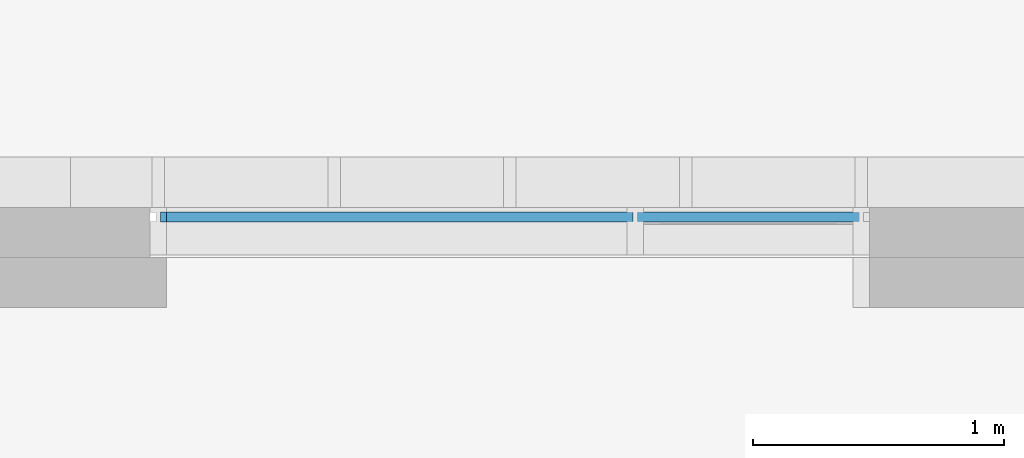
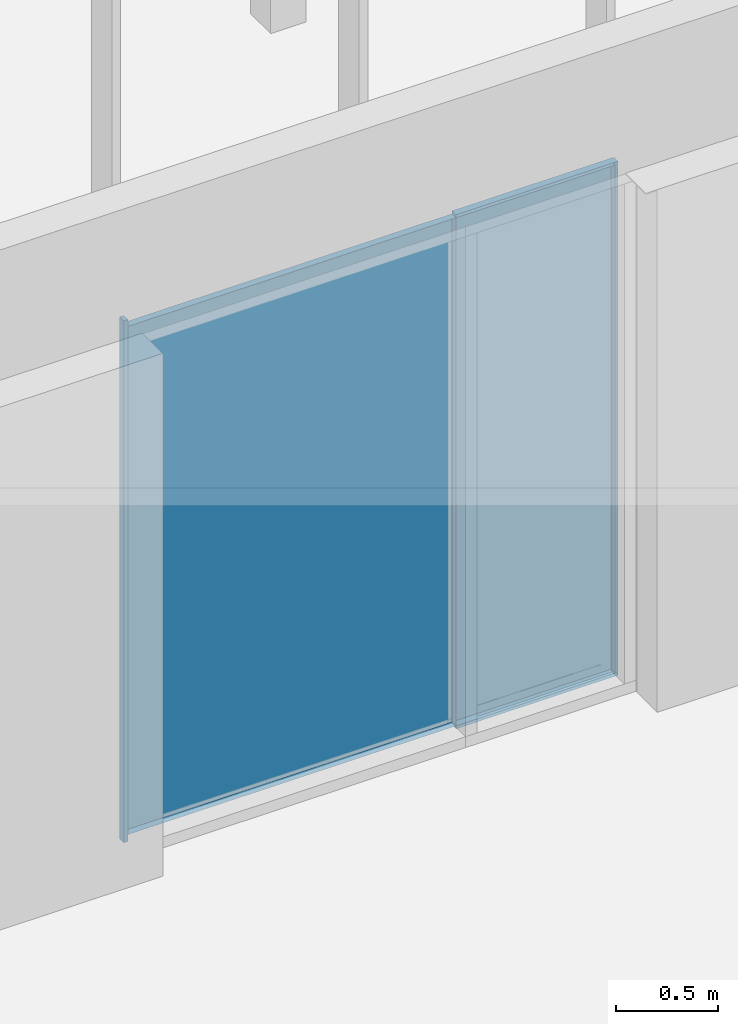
# One storey, part 76 of 240: 2 plates, 1 element without a shape of its own.
"""IFC2X3 building model written with IfcOpenShell, lengths in centimetres."""

from ifc_helpers import new_model, entity, si_unit, converted_unit, derived_unit, direction, frame, origin, origin_2d_with_axis, place, context, subcontext, project, spatial, rectangle, extrude, faceted_brep, source, transform, mapped, material, layer, layer_set, layer_usage, type_object, type_shapes, element, aggregate, save


model = new_model("IFC2X3")

# Units and contexts
model_context = context("Model", 3, precision=0.001, world=origin(), true_north=direction((6.12303176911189e-17, 1.0)))
body_context = subcontext(model_context, "Body", "Model", "MODEL_VIEW")
ifc_project = project(units=[si_unit("LENGTHUNIT", "METRE", prefix="CENTI"), si_unit("AREAUNIT", "SQUARE_METRE"), si_unit("VOLUMEUNIT", "CUBIC_METRE"), converted_unit("PLANEANGLEUNIT", "DEGREE", entity("IfcRatioMeasure", 0.0174532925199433), si_unit("PLANEANGLEUNIT", "RADIAN"), dimensions=[0, 0, 0, 0, 0, 0, 0]), si_unit("MASSUNIT", "GRAM", prefix="KILO"), derived_unit("MASSDENSITYUNIT", [(si_unit("MASSUNIT", "GRAM", prefix="KILO"), 1), (si_unit("LENGTHUNIT", "METRE"), -3)]), si_unit("TIMEUNIT", "SECOND"), si_unit("FREQUENCYUNIT", "HERTZ"), si_unit("THERMODYNAMICTEMPERATUREUNIT", "DEGREE_CELSIUS"), derived_unit("THERMALTRANSMITTANCEUNIT", [(si_unit("MASSUNIT", "GRAM", prefix="KILO"), 1), (si_unit("THERMODYNAMICTEMPERATUREUNIT", "KELVIN"), -1), (si_unit("TIMEUNIT", "SECOND"), -3)]), derived_unit("VOLUMETRICFLOWRATEUNIT", [(si_unit("LENGTHUNIT", "METRE"), 3), (si_unit("TIMEUNIT", "SECOND"), -1)]), si_unit("ELECTRICCURRENTUNIT", "AMPERE"), si_unit("ELECTRICVOLTAGEUNIT", "VOLT"), si_unit("POWERUNIT", "WATT"), si_unit("FORCEUNIT", "NEWTON", prefix="KILO"), si_unit("ILLUMINANCEUNIT", "LUX"), si_unit("LUMINOUSFLUXUNIT", "LUMEN"), si_unit("LUMINOUSINTENSITYUNIT", "CANDELA"), derived_unit("USERDEFINED", [(si_unit("MASSUNIT", "GRAM", prefix="KILO"), -1), (si_unit("LENGTHUNIT", "METRE"), -2), (si_unit("TIMEUNIT", "SECOND"), 3), (si_unit("LUMINOUSFLUXUNIT", "LUMEN"), 1)]), derived_unit("LINEARVELOCITYUNIT", [(si_unit("LENGTHUNIT", "METRE"), 1), (si_unit("TIMEUNIT", "SECOND"), -1)]), si_unit("PRESSUREUNIT", "PASCAL"), derived_unit("USERDEFINED", [(si_unit("LENGTHUNIT", "METRE"), -2), (si_unit("MASSUNIT", "GRAM", prefix="KILO"), 1), (si_unit("TIMEUNIT", "SECOND"), -2)])], contexts=[model_context])

# Site, building, storey
site_placement = place(None, frame((-2781.94577612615, 7442.24238424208, 0.0)))
site = spatial("IfcSite", under=ifc_project, at=site_placement, Name="Default", CompositionType="ELEMENT")
building_placement = place(site_placement, origin())
building = spatial("IfcBuilding", under=site, at=building_placement, CompositionType="ELEMENT")
storey_placement = place(building_placement, origin())
storey = spatial("IfcBuildingStorey", under=building, at=storey_placement, Name="N00 - COO", CompositionType="ELEMENT", Elevation=0.0)

# Curtain wall, plates
curtain_wall_type = type_object("IfcCurtainWallType", Name="Mur-rideau:07 - mur rideau trame 280 cm", PredefinedType="NOTDEFINED")
curtain_wall_placement = place(building_placement, origin())
curtain_wall = element("IfcCurtainWall", 1, at=curtain_wall_placement, inside=storey, type_object=curtain_wall_type, Name="Mur-rideau:07 - mur rideau trame 280 cm", ObjectType="Mur-rideau:07 - mur rideau trame 280 cm")
ifc_material = material(Name="Verre")
ifc_layer = layer(ifc_material, 4.0)
ifc_layer_set = layer_set([ifc_layer], Name="Panneau système:Vitré")
plate_type_1 = type_object("IfcPlateType", Name="Vitré", PredefinedType="CURTAIN_PANEL", material=ifc_layer_set)
shared_shape_1 = source(origin(), body_context, "Body", "Brep", [
    faceted_brep([(-137.07187501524, -2.0, 1.73749999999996), (138.80937501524, -2.0, 1.73749999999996), (138.80937501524, -2.0, 306.0), (-137.07187501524, -2.0, 306.0), (-137.07187501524, 2.0, 1.73749999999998), (-137.07187501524, 2.0, 306.0), (138.80937501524, 2.0, 306.0), (138.80937501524, 2.0, 1.73749999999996), (-47.0718750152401, 2.0, 0.0), (-47.0718750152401, 2.0, 307.7375), (-138.80937501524, 2.0, 307.7375), (-138.80937501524, 2.0, 0.0), (-138.80937501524, -2.0, 0.0), (-47.0718750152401, -2.0, 0.0), (-138.80937501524, -2.0, 307.7375), (-47.0718750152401, -2.0, 307.7375)], [[[0, 1, 2, 3]], [[4, 5, 6, 7], [8, 9, 10, 11]], [[1, 0, 4, 7]], [[2, 1, 7, 6]], [[3, 2, 6, 5]], [[0, 3, 5, 4]], [[12, 13, 8, 11]], [[14, 12, 11, 10]], [[15, 14, 10, 9]], [[13, 15, 9, 8]], [[13, 12, 14, 15]]]),
])
type_shapes(plate_type_1, [shared_shape_1])
plate_1_placement = place(curtain_wall_placement, frame((-1667.24050785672, -1073.7999999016, 2.38125000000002), z_axis=(0.0, 0.0, 1.0), x_axis=(-1.0, 0.0, 0.0)))
plate_1 = element("IfcPlate", 2, at=plate_1_placement, type_object=plate_type_1, material=ifc_material, Name="Panneau système:Vitré", ObjectType="Panneau système:Vitré", context=body_context, shape_type="MappedRepresentation", body=[
    mapped(shared_shape_1, transform((0.0, 0.0, 0.0), scale=1.0)),
])
ifc_layer_usage = layer_usage(ifc_layer_set, "AXIS3", "POSITIVE", 0.0)
plate_type_2 = type_object("IfcPlateType", Name="Vitré", PredefinedType="CURTAIN_PANEL", material=ifc_layer_set)
shared_shape_2 = source(origin(), body_context, "Body", "SweptSolid", [
    extrude(rectangle(XDim=4.0, YDim=2.38124996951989, at=origin_2d_with_axis()), frame((0.0, 0.0, 0.0), z_axis=(0.0, 0.0, 1.0), x_axis=(0.0, 1.0, 0.0)), (0.0, 0.0, 1.0), 312.5),
])
type_shapes(plate_type_2, [shared_shape_2])
plate_2_placement = place(curtain_wall_placement, frame((-1807.24050785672, -1073.7999999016, 0.0), z_axis=(0.0, 0.0, 1.0), x_axis=(-1.0, 0.0, 0.0)))
plate_2 = element("IfcPlate", 3, at=plate_2_placement, type_object=plate_type_2, material=ifc_layer_usage, Name="Panneau système:Vitré", ObjectType="Panneau système:Vitré", context=body_context, shape_type="MappedRepresentation", body=[
    mapped(shared_shape_2, transform((0.0, 0.0, 0.0), scale=1.0)),
])
aggregate(curtain_wall, [plate_1, plate_2])

save(model, "model.ifc")
